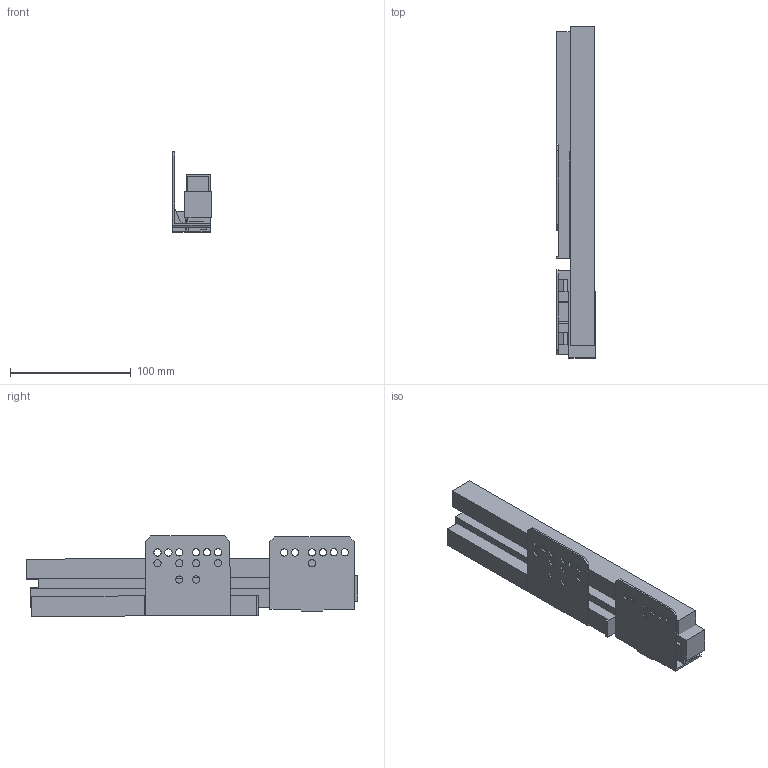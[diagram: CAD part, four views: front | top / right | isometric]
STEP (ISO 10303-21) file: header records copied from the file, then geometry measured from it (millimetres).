
FILE_DESCRIPTION (( 'STEP AP214' ), '1' );
FILE_NAME ('_IMOS Dynamic-XP VA 40kg NL275 LI.step', '2010-07-07T08:05:53', ( 'grass' ), ( '' ), 'SwSTEP 2.0', 'SolidWorks 2010', '' );
FILE_SCHEMA (( 'AUTOMOTIVE_DESIGN' ));
Length unit declared in the file: millimetre
Products named in the file (1): _IMOS Dynamic-XP VA 40kg NL275 LI
Bounding box: 32.04 x 274.89 x 66.67 mm (x, y, z)
Volume: 301301.1 mm3; surface area: 113013 mm2
Topology: 7 solids, 7 shells, 151 faces, 411 edges, 274 vertices
Faces by surface type: plane 111, cylinder 40
Entity records: 4913 total; most frequent: CARTESIAN_POINT 837, ORIENTED_EDGE 822, DIRECTION 795, EDGE_CURVE 411, VECTOR 331, LINE 331, VERTEX_POINT 274, AXIS2_PLACEMENT_3D 232
